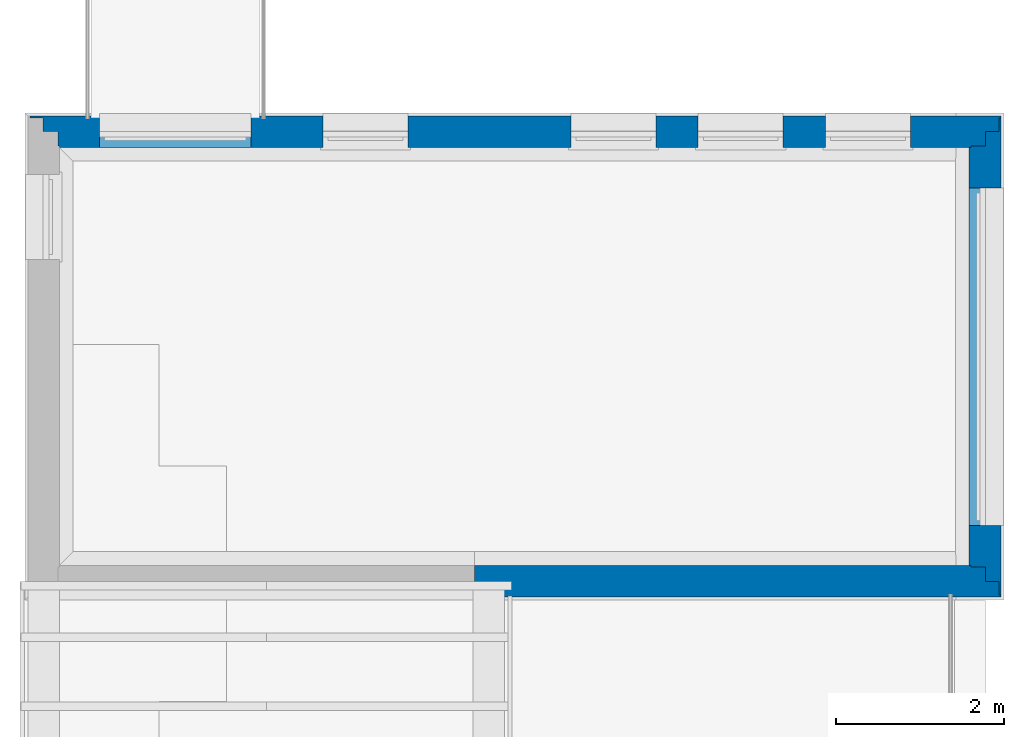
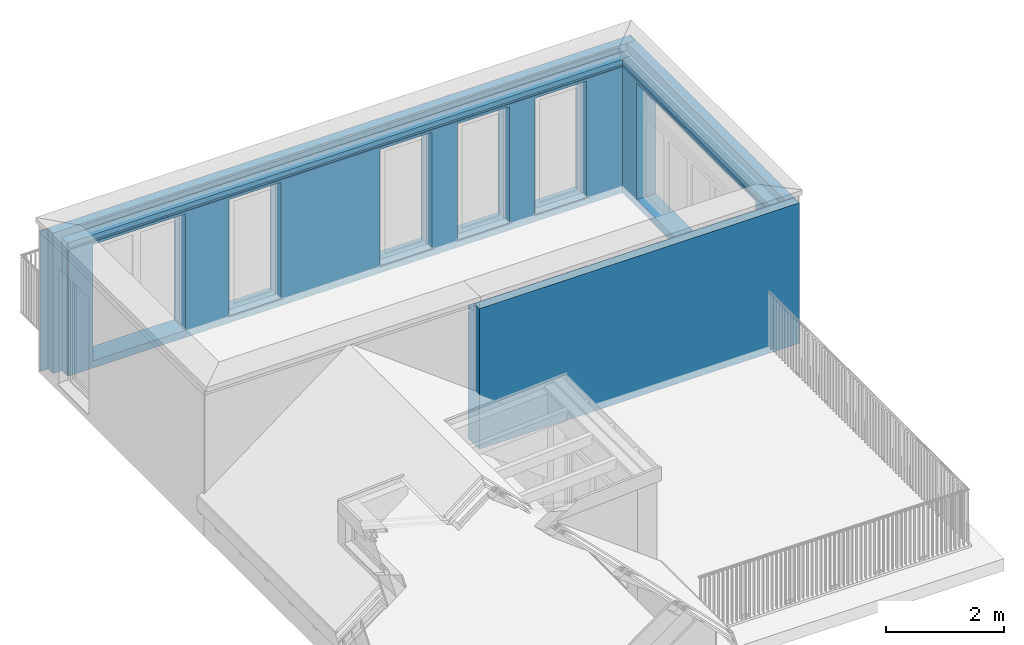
# One storey, part 9 of 15: 3 walls.
"""IFC4 building model written with IfcOpenShell, lengths in metres."""

from ifc_helpers import new_model, entity, si_unit, converted_unit, derived_unit, direction, frame, origin_with_axes, place, context, subcontext, project, spatial, triangles, material, constituent, constituent_set, type_object, element, save


model = new_model("IFC4")

# Units and contexts
model_context = context("Model", 3, precision=1e-05, world=origin_with_axes(), true_north=direction((-0.526213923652, 0.850352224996)))
body_context = subcontext(model_context, "Body", "Model", "MODEL_VIEW")
ifc_project = project(units=[si_unit("LENGTHUNIT", "METRE"), si_unit("AREAUNIT", "SQUARE_METRE"), si_unit("VOLUMEUNIT", "CUBIC_METRE"), converted_unit("PLANEANGLEUNIT", "DEGREE", entity("IfcPlaneAngleMeasure", 0.0174532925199), si_unit("PLANEANGLEUNIT", "RADIAN"), dimensions=[0, 0, 0, 0, 0, 0, 0]), si_unit("SOLIDANGLEUNIT", "STERADIAN"), converted_unit("TIMEUNIT", "Year", entity("IfcTimeMeasure", 31556926.0), si_unit("TIMEUNIT", "SECOND"), dimensions=[0, 0, 1, 0, 0, 0, 0]), si_unit("MASSUNIT", "GRAM", prefix="KILO"), si_unit("THERMODYNAMICTEMPERATUREUNIT", "DEGREE_CELSIUS"), si_unit("LUMINOUSINTENSITYUNIT", "LUMEN"), si_unit("ENERGYUNIT", "JOULE", prefix="MEGA"), derived_unit("THERMALCONDUCTANCEUNIT", [(si_unit("POWERUNIT", "WATT"), 1), (si_unit("LENGTHUNIT", "METRE"), -1), (si_unit("THERMODYNAMICTEMPERATUREUNIT", "KELVIN"), -1)]), derived_unit("SPECIFICHEATCAPACITYUNIT", [(si_unit("ENERGYUNIT", "JOULE"), 1), (si_unit("MASSUNIT", "GRAM", prefix="KILO"), -1), (si_unit("THERMODYNAMICTEMPERATUREUNIT", "KELVIN"), -1)]), derived_unit("MASSDENSITYUNIT", [(si_unit("MASSUNIT", "GRAM", prefix="KILO"), 1), (si_unit("VOLUMEUNIT", "CUBIC_METRE"), -1)])], contexts=[model_context])

# Site, building, storey, space
site_placement = place(None, origin_with_axes())
site = spatial("IfcSite", under=ifc_project, at=site_placement, Name="Gelände", CompositionType="ELEMENT")
building_placement = place(site_placement, origin_with_axes())
building = spatial("IfcBuilding", under=site, at=building_placement, Name="Haus vom Nikolaus", CompositionType="ELEMENT")
storey_placement = place(building_placement, frame((0.0, 0.0, 3.75), z_axis=(0.0, 0.0, 1.0), x_axis=(1.0, 0.0, 0.0)))
storey = spatial("IfcBuildingStorey", under=building, at=storey_placement, Name="1. OG", CompositionType="ELEMENT", Elevation=3.75)
space_placement = place(storey_placement, frame((-0.115002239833, 5.36483188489, 0.0), z_axis=(0.0, 0.0, 1.0), x_axis=(-1.0, 0.0, 0.0)))
space = spatial("IfcSpace", under=storey, at=space_placement, Name="OG", CompositionType="ELEMENT")

# Walls
ifc_material_1 = material(Name="Verputz, Zement")
ifc_constituent_1 = constituent(ifc_material_1, Name="Component 1")
ifc_material_2 = material(Name="Dämmung, weich Mineralwolle 2")
ifc_constituent_2 = constituent(ifc_material_2, Name="Component 2")
ifc_material_3 = material(Name="MW Kalksandstein")
ifc_constituent_3 = constituent(ifc_material_3, Name="Component 3")
ifc_constituent_4 = constituent(ifc_material_1, Name="Component 4")
ifc_constituent_set_1 = constituent_set(constituents=[ifc_constituent_1, ifc_constituent_2, ifc_constituent_3, ifc_constituent_4], Name="WA | 2 Schichtig KS")
wall_type = type_object("IfcWallType", Name="WA | 2 Schichtig KS 375", PredefinedType="NOTDEFINED")
wall_1_placement = place(space_placement, frame((-11.1799998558, -7.25500019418, 0.0), z_axis=(0.0, 0.0, 1.0), x_axis=(0.0, 1.0, 0.0)))
element("IfcWall", 1, at=wall_1_placement, inside=space, type_object=wall_type, material=ifc_constituent_set_1, Name="Wand-004", context=body_context, shape_type="Tessellation", body=[
    triangles([(4.48999990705, 0.355, 2.55), (5.31499999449, 0.355, 0.0), (5.31499999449, 0.355, 2.90000000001), (-0.3549999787, 0.355, 0.0), (4.48999990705, 0.355, 0.15), (0.479999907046, 0.355, 2.55), (-0.3549999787, 0.355, 2.90000000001), (0.479999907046, 0.355, 0.15), (-0.3549999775, 0.375, 2.90000000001), (-0.3549999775, 0.375, 0.0), (5.31499999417, 0.375, 0.0), (5.31499999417, 0.375, 2.90000000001), (4.48999990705, 0.375, 0.15), (0.479999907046, 0.375, 0.15), (0.479999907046, 0.375, 2.55), (4.48999990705, 0.375, 2.55)], [[1, 2, 3], [4, 2, 5], [4, 6, 7], [4, 5, 8], [1, 3, 6], [6, 4, 8], [7, 6, 3], [2, 1, 5], [4, 9, 10], [4, 7, 9], [2, 10, 11], [10, 2, 4], [12, 2, 11], [12, 3, 2], [3, 9, 7], [3, 12, 9], [8, 13, 14], [8, 5, 13], [6, 14, 15], [6, 8, 14], [1, 15, 16], [1, 6, 15], [5, 16, 13], [5, 1, 16], [11, 10, 14], [11, 16, 12], [9, 12, 16], [16, 11, 13], [14, 10, 15], [9, 16, 15], [9, 15, 10], [11, 14, 13]], closed=True),
    triangles([(4.48999990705, 0.195, 2.55), (5.15499999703, 0.195, 0.0), (5.15499999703, 0.195, 2.90000000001), (-0.1949999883, 0.195, 0.0), (4.48999990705, 0.195, 0.15), (0.479999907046, 0.195, 2.55), (-0.1949999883, 0.195, 2.90000000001), (0.479999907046, 0.195, 0.15), (-0.1949999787, 0.355, 2.90000000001), (-0.1949999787, 0.355, 0.0), (5.15499999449, 0.355, 0.0), (5.15499999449, 0.355, 2.90000000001), (4.48999990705, 0.355, 0.15), (0.479999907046, 0.355, 0.15), (0.479999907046, 0.355, 2.55), (4.48999990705, 0.355, 2.55)], [[1, 2, 3], [4, 2, 5], [4, 6, 7], [4, 5, 8], [1, 3, 6], [6, 4, 8], [7, 6, 3], [2, 1, 5], [4, 9, 10], [4, 7, 9], [2, 10, 11], [10, 2, 4], [3, 11, 12], [11, 3, 2], [3, 9, 7], [3, 12, 9], [8, 13, 14], [8, 5, 13], [6, 14, 15], [6, 8, 14], [1, 15, 16], [1, 6, 15], [5, 16, 13], [5, 1, 16], [11, 10, 14], [11, 16, 12], [16, 11, 13], [12, 15, 9], [14, 10, 15], [15, 12, 16], [9, 15, 10], [11, 14, 13]], closed=True),
    triangles([(4.48999990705, 0.02, 2.55), (4.97999999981, 0.02, 0.0), (4.97999999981, 0.02, 2.75), (-0.0199999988, 0.02, 0.0), (4.48999990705, 0.02, 0.15), (0.479999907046, 0.02, 2.55), (-0.0199999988, 0.02, 2.75), (0.479999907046, 0.02, 0.15), (-0.0199999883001, 0.195, 2.75), (-0.0199999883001, 0.195, 0.0), (4.97999999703, 0.195, 0.0), (4.97999999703, 0.195, 2.75), (4.48999990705, 0.195, 0.15), (0.479999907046, 0.195, 0.15), (0.479999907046, 0.195, 2.55), (4.48999990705, 0.195, 2.55)], [[1, 2, 3], [4, 2, 5], [4, 6, 7], [4, 5, 8], [1, 3, 6], [6, 4, 8], [7, 6, 3], [2, 1, 5], [4, 9, 10], [4, 7, 9], [10, 2, 4], [10, 11, 2], [11, 3, 2], [11, 12, 3], [3, 9, 7], [3, 12, 9], [8, 13, 14], [8, 5, 13], [6, 14, 15], [6, 8, 14], [1, 15, 16], [1, 6, 15], [5, 16, 13], [5, 1, 16], [11, 10, 14], [16, 11, 13], [15, 12, 16], [11, 16, 12], [15, 10, 9], [12, 15, 9], [11, 14, 13], [15, 14, 10]], closed=True),
    triangles([(4.96000000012, 0.0, 2.59999998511), (0.0, 0.0, 2.59999998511), (0.479999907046, 0.0, 2.55), (4.48999990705, 0.0, 0.15), (4.96000000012, 0.0, 0.0), (0.0, 0.0, 0.0), (0.479999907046, 0.0, 0.15), (4.48999990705, 0.0, 2.55), (1.19998766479e-09, 0.02, 2.59999998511), (1.19998766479e-09, 0.02, 0.0), (4.95999999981, 0.02, 0.0), (4.95999999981, 0.02, 2.59999998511), (4.48999990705, 0.02, 0.15), (0.479999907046, 0.02, 0.15), (0.479999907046, 0.02, 2.55), (4.48999990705, 0.02, 2.55)], [[1, 2, 3], [1, 4, 5], [6, 5, 4], [3, 2, 7], [6, 4, 7], [6, 7, 2], [1, 3, 8], [1, 8, 4], [6, 9, 10], [6, 2, 9], [10, 5, 6], [10, 11, 5], [11, 1, 5], [11, 12, 1], [1, 9, 2], [1, 12, 9], [7, 13, 14], [7, 4, 13], [3, 14, 15], [3, 7, 14], [8, 15, 16], [8, 3, 15], [4, 16, 13], [4, 8, 16], [9, 12, 16], [14, 9, 15], [11, 10, 14], [13, 12, 11], [9, 16, 15], [13, 16, 12], [11, 14, 13], [9, 14, 10]], closed=True),
    triangles([(1.19998766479e-09, 0.02, 2.75), (4.95999999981, 0.02, 2.64999998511), (1.19998766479e-09, 0.02, 2.64999998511), (4.95999999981, 0.02, 2.75), (4.96000000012, 0.0, 2.64999998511), (0.0, 0.0, 2.64999998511), (0.0, 0.0, 2.75), (4.96000000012, 0.0, 2.75)], [[1, 2, 3], [1, 4, 2], [5, 3, 2], [3, 5, 6], [7, 3, 6], [7, 1, 3], [8, 1, 7], [1, 8, 4], [8, 2, 4], [2, 8, 5], [8, 6, 5], [8, 7, 6]], closed=True),
])
ifc_constituent_5 = constituent(ifc_material_1, Name="Component 1")
ifc_constituent_6 = constituent(ifc_material_3, Name="Component 2")
ifc_constituent_7 = constituent(ifc_material_2, Name="Component 3")
ifc_constituent_8 = constituent(ifc_material_1, Name="Component 4")
ifc_constituent_set_2 = constituent_set(constituents=[ifc_constituent_5, ifc_constituent_6, ifc_constituent_7, ifc_constituent_8], Name="WA | 2 Schichtig KS")
wall_2_placement = place(space_placement, frame((-5.30538428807, -2.29500010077, 0.0), z_axis=(0.0, 0.0, 1.0), x_axis=(-1.0, -1.58800487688e-08, 0.0)))
element("IfcWall", 2, at=wall_2_placement, inside=space, type_object=wall_type, material=ifc_constituent_set_2, Name="Wand-004", context=body_context, shape_type="Tessellation", body=[
    triangles([(0.0, 0.0, 0.0), (5.89461556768, -9.36067818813e-08, 2.59999998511), (5.89461556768, -9.36067818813e-08, 0.0), (0.0, 0.0, 2.59999998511), (-3.17599280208e-10, -0.0199999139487, 2.59999998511), (5.89461556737, -0.0200000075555, 2.59999998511), (5.89461556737, -0.0200000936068, 0.0), (-3.17601056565e-10, -0.02, 0.0)], [[1, 2, 3], [2, 1, 4], [5, 2, 4], [2, 5, 6], [3, 6, 7], [6, 3, 2], [8, 3, 7], [8, 1, 3], [1, 5, 4], [1, 8, 5], [8, 6, 5], [8, 7, 6]], closed=True),
    triangles([(5.89461556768, -9.36067809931e-08, 2.75), (5.89461556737, -0.0200000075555, 2.64999998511), (5.89461556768, -9.36067809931e-08, 2.64999998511), (5.89461556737, -0.0200000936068, 2.75), (0.0, 0.0, 2.64999998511), (-3.17599280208e-10, -0.0199999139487, 2.64999998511), (0.0, 0.0, 2.75), (-3.17601056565e-10, -0.02, 2.75)], [[1, 2, 3], [1, 4, 2], [2, 5, 3], [2, 6, 5], [7, 3, 5], [7, 1, 3], [8, 1, 7], [1, 8, 4], [8, 2, 4], [2, 8, 6], [7, 6, 8], [6, 7, 5]], closed=True),
    triangles([(6.06961556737, -0.0200000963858, 0.0), (-3.17601056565e-10, -0.02, 2.75), (6.06961556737, -0.0200000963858, 2.75), (-3.17601056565e-10, -0.02, 0.0), (-3.09660830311e-09, -0.195, 2.75), (6.06961556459, -0.195000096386, 2.75), (6.06961556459, -0.195000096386, 0.0), (-3.09660919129e-09, -0.195, 0.0)], [[1, 2, 3], [1, 4, 2], [5, 3, 2], [3, 5, 6], [7, 3, 6], [7, 1, 3], [8, 1, 7], [8, 4, 1], [4, 5, 2], [4, 8, 5], [7, 5, 8], [5, 7, 6]], closed=True),
    triangles([(-3.09660919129e-09, -0.195, 0.0), (6.22961556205, -0.355000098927, 0.0), (-5.63741764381e-09, -0.355, 0.0), (6.22961556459, -0.195000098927, 0.0), (6.22961556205, -0.355000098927, 2.9), (-5.63741764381e-09, -0.355, 2.9), (-3.09660919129e-09, -0.195, 2.9), (6.22961556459, -0.195000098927, 2.9)], [[1, 2, 3], [1, 4, 2], [3, 5, 6], [3, 2, 5], [6, 1, 3], [6, 7, 1], [7, 4, 1], [7, 8, 4], [5, 4, 8], [5, 2, 4], [5, 7, 6], [7, 5, 8]], closed=True),
    triangles([(-5.95501870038e-09, -0.375, 0.0), (0.394819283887, -0.37500000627, 0.816990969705), (-5.95501870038e-09, -0.375, 2.9), (0.394819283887, -0.37500000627, 0.806990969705), (0.444819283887, -0.375000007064, 0.536990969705), (6.24961556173, -0.375000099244, 0.0), (0.444819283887, -0.375000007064, 0.816990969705), (6.24961556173, -0.375000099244, 2.9), (0.434819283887, -0.375000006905, 0.536990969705), (0.434819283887, -0.375000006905, 0.806990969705), (6.24961556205, -0.355000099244, 0.0), (6.24961556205, -0.355000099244, 2.9), (-5.63741764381e-09, -0.355, 2.9), (-5.63741764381e-09, -0.355, 0.0), (0.394819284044, -0.365091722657, 0.806990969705), (0.394819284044, -0.365091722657, 0.816990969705), (0.444819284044, -0.365091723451, 0.816990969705), (0.444819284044, -0.365091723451, 0.536990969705), (0.434819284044, -0.365091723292, 0.536990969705), (0.434819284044, -0.365091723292, 0.806990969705)], [[1, 2, 3], [2, 1, 4], [5, 6, 7], [3, 7, 8], [9, 1, 5], [7, 3, 2], [8, 7, 6], [9, 10, 4], [6, 5, 1], [1, 9, 4], [8, 11, 12], [11, 8, 6], [3, 12, 13], [12, 3, 8], [1, 13, 14], [1, 3, 13], [1, 11, 6], [1, 14, 11], [15, 2, 4], [15, 16, 2], [16, 7, 2], [16, 17, 7], [17, 5, 7], [17, 18, 5], [19, 5, 18], [5, 19, 9], [19, 10, 9], [19, 20, 10], [15, 10, 20], [10, 15, 4], [14, 12, 11], [14, 13, 12], [20, 18, 17], [20, 16, 15], [18, 20, 19], [16, 20, 17]], closed=True),
])
ifc_constituent_9 = constituent(ifc_material_1, Name="Component 1")
ifc_constituent_10 = constituent(ifc_material_2, Name="Component 2")
ifc_constituent_11 = constituent(ifc_material_3, Name="Component 3")
ifc_constituent_12 = constituent(ifc_material_1, Name="Component 4")
ifc_constituent_set_3 = constituent_set(constituents=[ifc_constituent_9, ifc_constituent_10, ifc_constituent_11, ifc_constituent_12], Name="WA | 2 Schichtig KS")
wall_3_placement = place(space_placement, frame((-0.3749998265, -7.25500084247, 0.0), z_axis=(0.0, 0.0, 1.0), x_axis=(-1.0, 5.99993595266e-08, 0.0)))
element("IfcWall", 3, at=wall_3_placement, inside=space, type_object=wall_type, material=ifc_constituent_set_3, Name="Wand-009", context=body_context, shape_type="Tessellation", body=[
    triangles([(4.14038444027, 0.35500024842, 2.55), (-0.3550000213, 0.3549999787, 2.90000000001), (3.13038444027, 0.355000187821, 2.55), (-0.3550000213, 0.3549999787, 0.0), (11.180000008, 0.355000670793, 0.0), (8.59538444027, 0.355000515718, 0.15), (2.27500000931, 0.355000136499, 0.15), (3.13038444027, 0.355000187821, 0.15), (11.180000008, 0.355000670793, 2.90000000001), (0.475000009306, 0.3550000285, 2.55), (0.475000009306, 0.3550000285, 0.15), (6.07538444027, 0.355000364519, 0.15), (6.07538444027, 0.355000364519, 2.55), (4.14038444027, 0.35500024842, 0.15), (7.58538444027, 0.355000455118, 2.55), (7.08538444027, 0.355000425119, 2.55), (7.58538444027, 0.355000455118, 0.15), (7.08538444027, 0.355000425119, 0.15), (10.1053844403, 0.355000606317, 0.15), (10.1053844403, 0.355000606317, 2.55), (9.09538444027, 0.355000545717, 2.55), (8.59538444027, 0.355000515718, 2.55), (9.09538444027, 0.355000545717, 0.15), (2.27500000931, 0.355000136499, 2.55), (-0.3550000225, 0.3749999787, 2.90000000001), (-0.3550000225, 0.3749999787, 0.0), (11.1800000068, 0.375000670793, 0.0), (11.1800000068, 0.375000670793, 2.90000000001), (3.13038443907, 0.375000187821, 0.15), (3.13038443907, 0.375000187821, 2.55), (4.14038443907, 0.37500024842, 2.55), (4.14038443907, 0.37500024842, 0.15), (7.08538443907, 0.375000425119, 0.15), (6.07538443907, 0.375000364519, 0.15), (6.07538443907, 0.375000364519, 2.55), (7.08538443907, 0.375000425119, 2.55), (8.59538443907, 0.375000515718, 2.55), (8.59538443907, 0.375000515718, 0.15), (7.58538443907, 0.375000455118, 0.15), (7.58538443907, 0.375000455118, 2.55), (9.09538443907, 0.375000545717, 2.55), (10.1053844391, 0.375000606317, 2.55), (10.1053844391, 0.375000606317, 0.15), (9.09538443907, 0.375000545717, 0.15), (0.475000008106, 0.3750000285, 0.15), (0.475000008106, 0.3750000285, 2.55), (2.27500000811, 0.375000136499, 2.55), (2.27500000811, 0.375000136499, 0.15)], [[1, 2, 3], [4, 5, 6], [3, 7, 8], [9, 2, 1], [10, 4, 11], [12, 13, 1], [9, 1, 13], [4, 14, 8], [12, 1, 14], [15, 16, 17], [4, 12, 14], [4, 18, 12], [16, 9, 13], [19, 5, 20], [17, 16, 18], [21, 9, 22], [4, 17, 18], [4, 6, 17], [15, 22, 9], [16, 15, 9], [6, 21, 22], [20, 9, 21], [23, 6, 5], [9, 20, 5], [23, 5, 19], [6, 23, 21], [7, 3, 24], [4, 10, 2], [24, 2, 10], [2, 24, 3], [4, 7, 11], [4, 8, 7], [4, 25, 26], [4, 2, 25], [5, 26, 27], [26, 5, 4], [28, 5, 27], [28, 9, 5], [9, 25, 2], [9, 28, 25], [3, 29, 30], [3, 8, 29], [3, 31, 1], [31, 3, 30], [14, 31, 32], [14, 1, 31], [8, 32, 29], [8, 14, 32], [12, 33, 34], [33, 12, 18], [35, 12, 34], [35, 13, 12], [36, 13, 35], [36, 16, 13], [33, 16, 36], [33, 18, 16], [37, 6, 22], [37, 38, 6], [39, 6, 38], [6, 39, 17], [39, 15, 17], [39, 40, 15], [40, 22, 15], [40, 37, 22], [41, 20, 21], [20, 41, 42], [20, 43, 19], [20, 42, 43], [19, 44, 23], [19, 43, 44], [23, 41, 21], [23, 44, 41], [10, 45, 46], [10, 11, 45], [24, 46, 47], [24, 10, 46], [7, 47, 48], [7, 24, 47], [11, 48, 45], [11, 7, 48], [27, 26, 48], [25, 28, 40], [27, 29, 32], [48, 47, 30], [35, 32, 31], [27, 32, 34], [25, 31, 30], [25, 35, 31], [25, 30, 47], [25, 40, 36], [34, 32, 35], [27, 34, 33], [40, 28, 37], [25, 36, 35], [42, 27, 43], [40, 39, 33], [36, 40, 33], [38, 27, 39], [33, 39, 27], [37, 44, 38], [44, 37, 41], [27, 42, 28], [41, 37, 28], [41, 28, 42], [44, 43, 27], [38, 44, 27], [46, 26, 25], [48, 30, 29], [27, 48, 29], [45, 48, 26], [26, 46, 45], [47, 46, 25]], closed=True),
    triangles([(4.14038444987, 0.19500024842, 2.55), (-0.1950000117, 0.1949999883, 2.90000000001), (3.13038444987, 0.195000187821, 2.55), (-0.1950000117, 0.1949999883, 0.0), (11.1600000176, 0.195000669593, 0.0), (8.59538444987, 0.195000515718, 0.15), (2.27500001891, 0.195000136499, 0.15), (3.13038444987, 0.195000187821, 0.15), (11.1600000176, 0.195000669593, 2.90000000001), (0.475000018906, 0.1950000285, 2.55), (0.475000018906, 0.1950000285, 0.15), (6.07538444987, 0.195000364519, 0.15), (6.07538444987, 0.195000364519, 2.55), (4.14038444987, 0.19500024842, 0.15), (7.58538444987, 0.195000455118, 2.55), (7.08538444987, 0.195000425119, 2.55), (7.58538444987, 0.195000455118, 0.15), (7.08538444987, 0.195000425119, 0.15), (10.1053844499, 0.195000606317, 0.15), (10.1053844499, 0.195000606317, 2.55), (9.09538444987, 0.195000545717, 2.55), (8.59538444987, 0.195000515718, 2.55), (9.09538444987, 0.195000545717, 0.15), (2.27500001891, 0.195000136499, 2.55), (-0.1950000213, 0.3549999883, 2.90000000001), (-0.1950000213, 0.3549999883, 0.0), (11.160000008, 0.355000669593, 0.0), (11.160000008, 0.355000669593, 2.90000000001), (3.13038444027, 0.355000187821, 0.15), (3.13038444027, 0.355000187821, 2.55), (4.14038444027, 0.35500024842, 2.55), (4.14038444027, 0.35500024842, 0.15), (6.07538444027, 0.355000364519, 0.15), (7.08538444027, 0.355000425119, 0.15), (6.07538444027, 0.355000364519, 2.55), (7.08538444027, 0.355000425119, 2.55), (8.59538444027, 0.355000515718, 2.55), (8.59538444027, 0.355000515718, 0.15), (7.58538444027, 0.355000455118, 0.15), (7.58538444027, 0.355000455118, 2.55), (10.1053844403, 0.355000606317, 2.55), (9.09538444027, 0.355000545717, 2.55), (10.1053844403, 0.355000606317, 0.15), (9.09538444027, 0.355000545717, 0.15), (0.475000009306, 0.3550000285, 0.15), (0.475000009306, 0.3550000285, 2.55), (2.27500000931, 0.355000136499, 2.55), (2.27500000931, 0.355000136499, 0.15)], [[1, 2, 3], [4, 5, 6], [3, 7, 8], [4, 8, 7], [9, 2, 1], [10, 4, 11], [12, 13, 1], [9, 1, 13], [4, 14, 8], [12, 1, 14], [15, 16, 17], [4, 12, 14], [4, 18, 12], [16, 9, 13], [19, 5, 20], [17, 16, 18], [21, 9, 22], [4, 17, 18], [4, 6, 17], [15, 22, 9], [16, 15, 9], [6, 21, 22], [20, 9, 21], [23, 6, 5], [9, 20, 5], [23, 5, 19], [6, 23, 21], [7, 3, 24], [4, 10, 2], [24, 2, 10], [2, 24, 3], [7, 11, 4], [4, 25, 26], [4, 2, 25], [27, 4, 26], [27, 5, 4], [28, 5, 27], [28, 9, 5], [9, 25, 2], [9, 28, 25], [3, 29, 30], [3, 8, 29], [1, 30, 31], [1, 3, 30], [14, 31, 32], [14, 1, 31], [14, 29, 8], [29, 14, 32], [33, 18, 34], [33, 12, 18], [35, 12, 33], [35, 13, 12], [16, 35, 36], [35, 16, 13], [34, 16, 36], [34, 18, 16], [37, 6, 22], [37, 38, 6], [38, 17, 6], [38, 39, 17], [39, 15, 17], [39, 40, 15], [37, 15, 40], [15, 37, 22], [21, 41, 20], [21, 42, 41], [20, 43, 19], [20, 41, 43], [43, 23, 19], [23, 43, 44], [23, 42, 21], [23, 44, 42], [10, 45, 46], [10, 11, 45], [24, 46, 47], [24, 10, 46], [7, 47, 48], [7, 24, 47], [11, 48, 45], [11, 7, 48], [27, 26, 48], [25, 28, 40], [27, 29, 32], [48, 47, 30], [35, 32, 31], [27, 32, 33], [25, 31, 30], [25, 35, 31], [25, 30, 47], [25, 40, 36], [33, 32, 35], [27, 33, 34], [40, 28, 37], [25, 36, 35], [41, 27, 43], [40, 39, 34], [36, 40, 34], [38, 27, 39], [34, 39, 27], [44, 38, 42], [42, 38, 37], [27, 41, 28], [42, 37, 28], [42, 28, 41], [44, 43, 27], [38, 44, 27], [46, 26, 25], [48, 30, 29], [27, 48, 29], [45, 48, 26], [26, 46, 45], [47, 46, 25]], closed=True),
    triangles([(11.0000000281, 0.020000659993, 2.75), (-0.0200000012, 0.0199999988, 2.75), (3.13038446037, 0.0200001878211, 2.55), (-0.0200000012, 0.0199999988, 0.0), (11.0000000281, 0.020000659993, 0.0), (8.59538446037, 0.0200005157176, 0.15), (2.27500002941, 0.0200001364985, 0.15), (3.13038446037, 0.0200001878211, 0.15), (4.14038446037, 0.0200002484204, 2.55), (0.475000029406, 0.0200000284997, 2.55), (0.475000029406, 0.0200000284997, 0.15), (6.07538446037, 0.0200003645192, 0.15), (6.07538446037, 0.0200003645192, 2.55), (4.14038446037, 0.0200002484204, 0.15), (7.58538446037, 0.0200004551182, 2.55), (7.08538446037, 0.0200004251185, 2.55), (7.58538446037, 0.0200004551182, 0.15), (7.08538446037, 0.0200004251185, 0.15), (10.1053844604, 0.0200006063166, 0.15), (10.1053844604, 0.0200006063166, 2.55), (9.09538446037, 0.0200005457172, 2.55), (8.59538446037, 0.0200005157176, 2.55), (9.09538446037, 0.0200005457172, 0.15), (2.27500002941, 0.0200001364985, 2.55), (-0.0200000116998, 0.194999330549, 2.75), (-0.0200000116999, 0.1949999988, 0.0), (11.0000000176, 0.195000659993, 0.0), (11.0000000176, 0.194999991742, 2.75), (3.13038444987, 0.195000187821, 0.15), (3.13038444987, 0.195000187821, 2.55), (4.14038444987, 0.19500024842, 2.55), (4.14038444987, 0.19500024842, 0.15), (6.07538444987, 0.195000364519, 0.15), (7.08538444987, 0.195000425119, 0.15), (6.07538444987, 0.195000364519, 2.55), (7.08538444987, 0.195000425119, 2.55), (8.59538444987, 0.195000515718, 2.55), (8.59538444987, 0.195000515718, 0.15), (7.58538444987, 0.195000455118, 0.15), (7.58538444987, 0.195000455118, 2.55), (10.1053844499, 0.195000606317, 2.55), (9.09538444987, 0.195000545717, 2.55), (10.1053844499, 0.195000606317, 0.15), (9.09538444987, 0.195000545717, 0.15), (0.475000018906, 0.1950000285, 0.15), (0.475000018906, 0.1950000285, 2.55), (2.27500001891, 0.195000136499, 2.55), (2.27500001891, 0.195000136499, 0.15)], [[1, 2, 3], [4, 5, 6], [3, 7, 8], [4, 8, 7], [1, 3, 9], [10, 4, 11], [12, 13, 9], [1, 9, 13], [4, 14, 8], [12, 9, 14], [15, 16, 17], [4, 12, 14], [4, 18, 12], [1, 13, 16], [19, 5, 20], [17, 16, 18], [21, 1, 22], [4, 17, 18], [4, 6, 17], [15, 22, 1], [16, 15, 1], [6, 21, 22], [20, 1, 21], [23, 6, 5], [1, 20, 5], [23, 5, 19], [6, 23, 21], [7, 3, 24], [4, 10, 2], [24, 2, 10], [2, 24, 3], [7, 11, 4], [4, 25, 26], [4, 2, 25], [27, 4, 26], [4, 27, 5], [28, 5, 27], [5, 28, 1], [2, 28, 25], [2, 1, 28], [3, 29, 30], [3, 8, 29], [9, 30, 31], [9, 3, 30], [14, 31, 32], [14, 9, 31], [8, 32, 29], [8, 14, 32], [33, 18, 34], [33, 12, 18], [35, 12, 33], [35, 13, 12], [16, 35, 36], [35, 16, 13], [34, 16, 36], [34, 18, 16], [37, 6, 22], [37, 38, 6], [38, 17, 6], [38, 39, 17], [39, 15, 17], [39, 40, 15], [40, 22, 15], [40, 37, 22], [21, 41, 20], [21, 42, 41], [20, 43, 19], [20, 41, 43], [43, 23, 19], [23, 43, 44], [23, 42, 21], [23, 44, 42], [10, 45, 46], [10, 11, 45], [24, 46, 47], [24, 10, 46], [7, 47, 48], [7, 24, 47], [11, 48, 45], [11, 7, 48], [25, 28, 40], [27, 26, 48], [27, 32, 33], [27, 29, 32], [30, 25, 31], [35, 32, 31], [25, 35, 31], [27, 33, 34], [35, 33, 32], [27, 34, 39], [25, 36, 35], [40, 39, 34], [40, 34, 36], [41, 27, 43], [25, 40, 36], [37, 40, 28], [27, 38, 44], [27, 39, 38], [44, 37, 42], [27, 41, 28], [42, 28, 41], [28, 42, 37], [27, 44, 43], [37, 44, 38], [48, 30, 29], [46, 26, 25], [27, 48, 29], [45, 48, 26], [47, 25, 30], [48, 47, 30], [26, 46, 45], [47, 46, 25]], closed=True),
    triangles([(10.8250000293, 6.49493070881e-07, 2.59999998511), (0.0, 0.0, 2.59999998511), (2.27500003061, 1.364985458e-07, 2.55), (0.0, 0.0, 0.0), (10.8250000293, 6.49493069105e-07, 0.0), (8.59538446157, 5.15717562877e-07, 0.15), (3.13038446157, 1.87821065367e-07, 2.55), (2.27500003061, 1.364985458e-07, 0.15), (3.13038446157, 1.87821065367e-07, 0.15), (4.14038446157, 2.48420418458e-07, 2.55), (0.475000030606, 2.84996986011e-08, 2.55), (0.475000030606, 2.84996986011e-08, 0.15), (6.07538446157, 3.64519175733e-07, 2.55), (4.14038446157, 2.48420418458e-07, 0.15), (6.07538446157, 3.64519175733e-07, 0.15), (9.09538446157, 5.45717242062e-07, 2.55), (8.59538446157, 5.15717562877e-07, 2.55), (7.08538446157, 4.251185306e-07, 0.15), (7.58538446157, 4.55118209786e-07, 2.55), (7.08538446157, 4.251185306e-07, 2.55), (7.58538446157, 4.55118209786e-07, 0.15), (10.1053844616, 6.06316595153e-07, 2.55), (10.1053844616, 6.06316595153e-07, 0.15), (9.09538446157, 5.45717242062e-07, 0.15), (-1.19995191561e-09, 0.0199994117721, 2.59999998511), (-1.19998716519e-09, 0.02, 0.0), (10.8250000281, 0.0200006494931, 0.0), (10.8250000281, 0.0200000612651, 2.59999998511), (3.13038446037, 0.0199995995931, 0.15), (3.13038446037, 0.0199995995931, 2.55), (4.14038446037, 0.0199996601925, 2.55), (4.14038446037, 0.0199996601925, 0.15), (7.08538446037, 0.0199998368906, 0.15), (6.07538446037, 0.0199997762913, 0.15), (6.07538446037, 0.0199997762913, 2.55), (7.08538446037, 0.0199998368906, 2.55), (8.59538446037, 0.0200005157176, 2.55), (8.59538446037, 0.0200005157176, 0.15), (7.58538446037, 0.0200004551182, 0.15), (7.58538446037, 0.0200004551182, 2.55), (9.09538446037, 0.0200005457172, 2.55), (10.1053844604, 0.0200006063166, 2.55), (10.1053844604, 0.0200006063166, 0.15), (9.09538446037, 0.0200005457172, 0.15), (0.475000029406, 0.0199994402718, 0.15), (0.475000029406, 0.0199994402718, 2.55), (2.27500002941, 0.0199995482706, 2.55), (2.27500002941, 0.0199995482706, 0.15)], [[1, 2, 3], [4, 5, 6], [7, 8, 9], [4, 9, 8], [1, 7, 10], [11, 2, 12], [1, 10, 13], [4, 14, 9], [15, 13, 10], [15, 10, 14], [16, 1, 17], [4, 15, 14], [4, 18, 15], [19, 20, 21], [1, 13, 20], [21, 20, 18], [22, 1, 16], [4, 21, 18], [4, 6, 21], [1, 19, 17], [1, 20, 19], [16, 17, 6], [1, 23, 5], [24, 6, 5], [23, 1, 22], [24, 5, 23], [6, 24, 16], [8, 7, 3], [4, 12, 2], [3, 2, 11], [1, 3, 7], [8, 12, 4], [4, 25, 26], [4, 2, 25], [26, 5, 4], [26, 27, 5], [28, 5, 27], [5, 28, 1], [1, 25, 2], [25, 1, 28], [7, 29, 30], [7, 9, 29], [10, 30, 31], [10, 7, 30], [14, 31, 32], [14, 10, 31], [9, 32, 29], [9, 14, 32], [15, 33, 34], [33, 15, 18], [35, 15, 34], [35, 13, 15], [36, 13, 35], [36, 20, 13], [33, 20, 36], [33, 18, 20], [37, 6, 17], [37, 38, 6], [39, 6, 38], [6, 39, 21], [39, 19, 21], [39, 40, 19], [40, 17, 19], [40, 37, 17], [41, 22, 16], [22, 41, 42], [22, 43, 23], [22, 42, 43], [23, 44, 24], [23, 43, 44], [24, 41, 16], [24, 44, 41], [11, 45, 46], [11, 12, 45], [3, 46, 47], [3, 11, 46], [8, 47, 48], [8, 3, 47], [8, 45, 12], [45, 8, 48], [25, 28, 41], [27, 26, 48], [27, 32, 34], [25, 35, 31], [27, 29, 32], [25, 30, 47], [31, 34, 32], [25, 31, 30], [34, 31, 35], [27, 34, 33], [36, 39, 33], [27, 33, 39], [25, 36, 35], [25, 37, 40], [44, 38, 41], [39, 36, 40], [25, 40, 36], [27, 39, 38], [42, 28, 43], [27, 38, 44], [41, 38, 37], [27, 43, 28], [25, 41, 37], [41, 28, 42], [44, 43, 27], [48, 30, 29], [25, 45, 26], [27, 48, 29], [45, 48, 26], [48, 47, 30], [46, 45, 25], [47, 46, 25]], closed=True),
    triangles([(10.8250000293, 6.49493070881e-07, 2.75), (10.8250000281, 0.0200000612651, 2.64999998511), (10.8250000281, 0.0200006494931, 2.75), (10.8250000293, 6.49493070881e-07, 2.64999998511), (-1.19995191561e-09, 0.0199994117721, 2.64999998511), (0.0, 0.0, 2.64999998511), (-1.19998716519e-09, 0.02, 2.75), (0.0, 0.0, 2.75)], [[1, 2, 3], [2, 1, 4], [4, 5, 2], [4, 6, 5], [7, 2, 5], [7, 3, 2], [8, 3, 7], [3, 8, 1], [8, 4, 1], [4, 8, 6], [8, 5, 6], [8, 7, 5]], closed=True),
])

save(model, "model.ifc")
